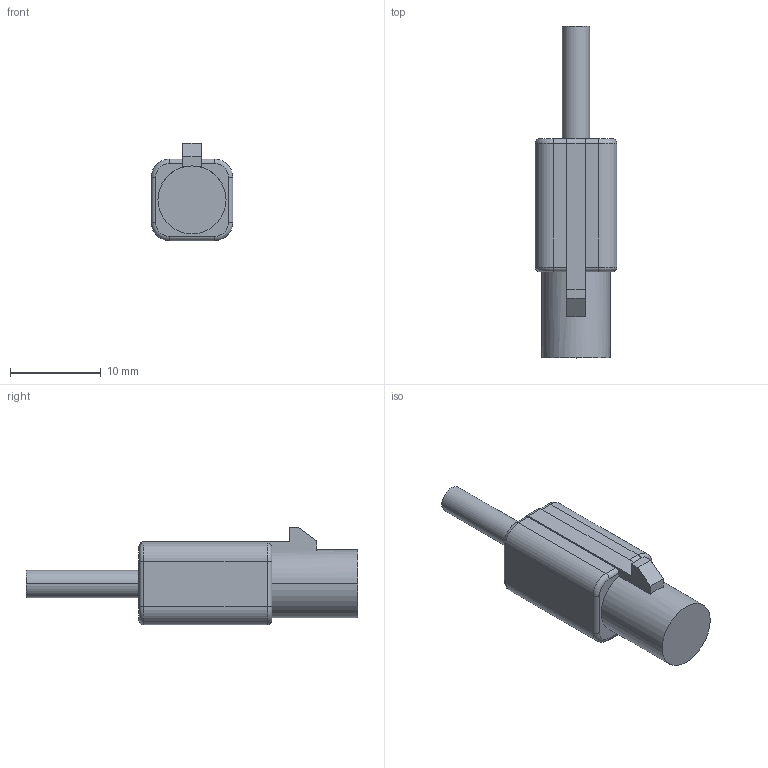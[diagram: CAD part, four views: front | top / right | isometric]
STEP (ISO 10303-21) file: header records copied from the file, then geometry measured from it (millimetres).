
FILE_DESCRIPTION((''),'2;1');
FILE_NAME('CRC1001-5201F_SW0001','2013-11-07T',('en-yo'),(''),'PRO/ENGINEER BY PARAMETRIC TECHNOLOGY CORPORATION, 2011220','PRO/ENGINEER BY PARAMETRIC TECHNOLOGY CORPORATION, 2011220','');
FILE_SCHEMA(('AUTOMOTIVE_DESIGN_CC2 { 1 2 10303 214 -1 1 5 2 }'));
Length unit declared in the file: millimetre
Products named in the file (1): CRC1001-5201F_SW0001
Bounding box: 9 x 36.6 x 10.75 mm (x, y, z)
Volume: 1661.1 mm3; surface area: 985.9 mm2
Topology: 1 solids, 1 shells, 43 faces, 104 edges, 64 vertices
Faces by surface type: cylinder 19, plane 16, torus 8
Entity records: 1693 total; most frequent: DIRECTION 238, CARTESIAN_POINT 211, ORIENTED_EDGE 208, COLOUR_RGB 117, EDGE_CURVE 104, AXIS2_PLACEMENT_3D 91, VERTEX_POINT 64, VECTOR 56
